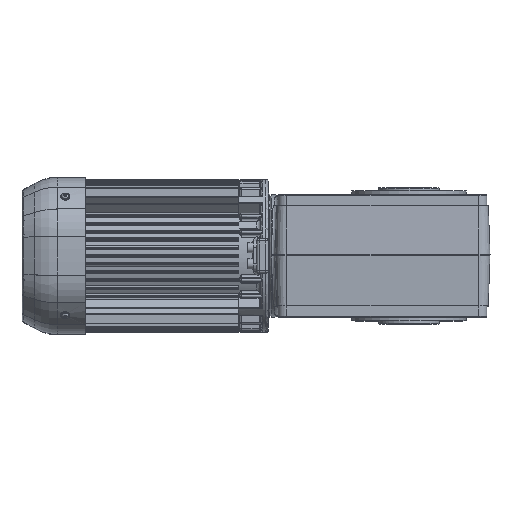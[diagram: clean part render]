
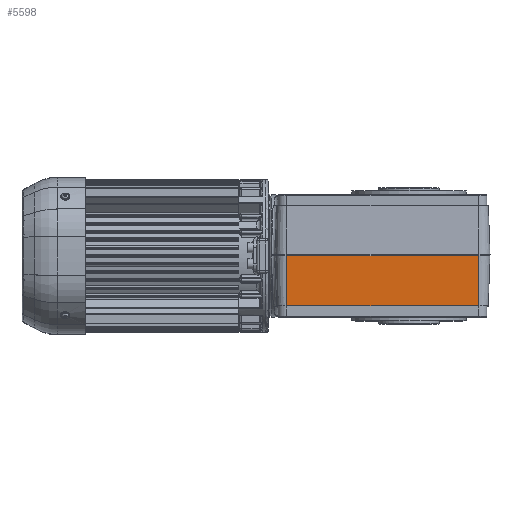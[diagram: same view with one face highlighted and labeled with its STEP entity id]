
A CAD part, top view. The second image highlights one B-rep face of the part: STEP entity #5598.
In plain terms, the highlighted planar face has unit normal (0, -0.035, 0.999).
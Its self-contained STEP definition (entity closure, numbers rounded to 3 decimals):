
#5598 = ADVANCED_FACE( '', ( #11839 ), #11840, .T. );
#11839 = FACE_OUTER_BOUND( '', #38272, .T. );
#11840 = PLANE( '', #38273 );
#38272 = EDGE_LOOP( '', ( #56009, #56010, #56011, #56012 ) );
#38273 = AXIS2_PLACEMENT_3D( '', #56013, #56014, #56015 );
#56009 = ORIENTED_EDGE( '', *, *, #61836, .T. );
#56010 = ORIENTED_EDGE( '', *, *, #64939, .T. );
#56011 = ORIENTED_EDGE( '', *, *, #64940, .F. );
#56012 = ORIENTED_EDGE( '', *, *, #60626, .T. );
#56013 = CARTESIAN_POINT( '', ( 200.623, -70.963, 131.698 ) );
#56014 = DIRECTION( '', ( 0., -0.035, 0.999 ) );
#56015 = DIRECTION( '', ( 0., 0.999, 0.035 ) );
#60626 = EDGE_CURVE( '', #68918, #68916, #68919, .T. );
#61836 = EDGE_CURVE( '', #68916, #70805, #70807, .T. );
#64939 = EDGE_CURVE( '', #70805, #74849, #74850, .T. );
#64940 = EDGE_CURVE( '', #68918, #74849, #74851, .T. );
#68916 = VERTEX_POINT( '', #84481 );
#68918 = VERTEX_POINT( '', #84483 );
#68919 = LINE( '', #84484, #84485 );
#70805 = VERTEX_POINT( '', #89137 );
#70807 = LINE( '', #89139, #89140 );
#74849 = VERTEX_POINT( '', #99554 );
#74850 = LINE( '', #99555, #99556 );
#74851 = LINE( '', #99557, #99558 );
#84481 = CARTESIAN_POINT( '', ( 326.123, -138.463, 129.341 ) );
#84483 = CARTESIAN_POINT( '', ( 75.123, -138.463, 129.341 ) );
#84484 = CARTESIAN_POINT( '', ( 326.123, -138.463, 129.341 ) );
#84485 = VECTOR( '', #103212, 1000. );
#89137 = CARTESIAN_POINT( '', ( 326.123, -72.963, 131.628 ) );
#89139 = CARTESIAN_POINT( '', ( 326.123, -70.963, 131.698 ) );
#89140 = VECTOR( '', #105127, 1000. );
#99554 = CARTESIAN_POINT( '', ( 75.123, -72.963, 131.628 ) );
#99555 = CARTESIAN_POINT( '', ( 200.623, -72.963, 131.628 ) );
#99556 = VECTOR( '', #108865, 1000. );
#99557 = CARTESIAN_POINT( '', ( 75.123, -70.963, 131.698 ) );
#99558 = VECTOR( '', #108866, 1000. );
#103212 = DIRECTION( '', ( 1., 0., 0. ) );
#105127 = DIRECTION( '', ( 0., 0.999, 0.035 ) );
#108865 = DIRECTION( '', ( -1., 0., 0. ) );
#108866 = DIRECTION( '', ( 0., 0.999, 0.035 ) );
